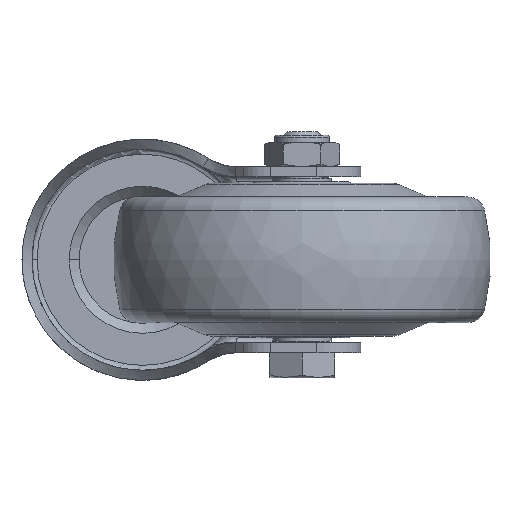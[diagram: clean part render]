
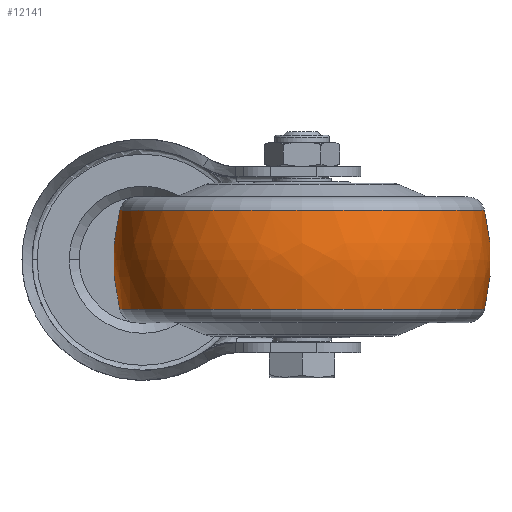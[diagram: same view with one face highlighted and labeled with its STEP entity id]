
A CAD part, front view. The second image highlights one B-rep face of the part: STEP entity #12141.
In plain terms, the highlighted free-form (B-spline) face has degree [3, 3] with [7, 4] control points.
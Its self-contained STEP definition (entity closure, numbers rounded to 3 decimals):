
#11679=CARTESIAN_POINT('',(0.,-2.5,0.));
#11680=DIRECTION('',(0.,0.,1.));
#11681=DIRECTION('',(0.247,0.969,0.));
#11682=AXIS2_PLACEMENT_3D('',#11679,#11680,#11681);
#11684=CARTESIAN_POINT('',(0.,2.5,0.));
#11685=DIRECTION('',(0.,0.,-1.));
#11686=DIRECTION('',(0.247,-0.969,0.));
#11687=AXIS2_PLACEMENT_3D('',#11684,#11685,#11686);
#11689=CARTESIAN_POINT('',(9.863,0.,0.));
#11690=DIRECTION('',(-1.,0.,0.));
#11691=DIRECTION('',(0.,1.,0.));
#11692=AXIS2_PLACEMENT_3D('',#11689,#11690,#11691);
#11704=CARTESIAN_POINT('',(-9.863,0.,0.));
#11705=DIRECTION('',(-1.,0.,0.));
#11706=DIRECTION('',(0.,1.,0.));
#11707=AXIS2_PLACEMENT_3D('',#11704,#11705,#11706);
#11984=CARTESIAN_POINT('',(9.863,36.265,0.));
#11985=CARTESIAN_POINT('',(-9.863,36.265,0.));
#11986=VERTEX_POINT('',#11984);
#11987=VERTEX_POINT('',#11985);
#12024=CARTESIAN_POINT('',(9.863,-36.265,0.));
#12025=CARTESIAN_POINT('',(-9.863,-36.265,0.));
#12026=VERTEX_POINT('',#12024);
#12027=VERTEX_POINT('',#12025);
#12104=CARTESIAN_POINT('',(-10.249,-36.093,
2.271));
#12105=CARTESIAN_POINT('',(-3.494,-37.88,
2.383));
#12106=CARTESIAN_POINT('',(3.494,-37.88,
2.383));
#12107=CARTESIAN_POINT('',(10.249,-36.093,
2.271));
#12108=CARTESIAN_POINT('',(-10.249,-37.491,
-19.941));
#12109=CARTESIAN_POINT('',(-3.494,-39.347,
-20.928));
#12110=CARTESIAN_POINT('',(3.494,-39.347,
-20.928));
#12111=CARTESIAN_POINT('',(10.249,-37.491,
-19.941));
#12112=CARTESIAN_POINT('',(-10.249,-22.256,
-36.165));
#12113=CARTESIAN_POINT('',(-3.494,-23.358,
-37.955));
#12114=CARTESIAN_POINT('',(3.494,-23.358,
-37.955));
#12115=CARTESIAN_POINT('',(10.249,-22.256,
-36.165));
#12116=CARTESIAN_POINT('',(-10.249,0.,-36.165));
#12117=CARTESIAN_POINT('',(-3.494,0.,-37.955));
#12118=CARTESIAN_POINT('',(3.494,0.,-37.955));
#12119=CARTESIAN_POINT('',(10.249,0.,-36.165));
#12120=CARTESIAN_POINT('',(-10.249,22.256,
-36.165));
#12121=CARTESIAN_POINT('',(-3.494,23.358,
-37.955));
#12122=CARTESIAN_POINT('',(3.494,23.358,
-37.955));
#12123=CARTESIAN_POINT('',(10.249,22.256,
-36.165));
#12124=CARTESIAN_POINT('',(-10.249,37.491,
-19.941));
#12125=CARTESIAN_POINT('',(-3.494,39.347,
-20.928));
#12126=CARTESIAN_POINT('',(3.494,39.347,
-20.928));
#12127=CARTESIAN_POINT('',(10.249,37.491,
-19.941));
#12128=CARTESIAN_POINT('',(-10.249,36.093,
2.271));
#12129=CARTESIAN_POINT('',(-3.494,37.88,
2.383));
#12130=CARTESIAN_POINT('',(3.494,37.88,2.383));
#12131=CARTESIAN_POINT('',(10.249,36.093,2.271));
#12132=(BOUNDED_SURFACE()B_SPLINE_SURFACE(3,3,((#12104,#12105,#12106,#12107),(
#12108,#12109,#12110,#12111),(#12112,#12113,#12114,#12115),(#12116,#12117,
#12118,#12119),(#12120,#12121,#12122,#12123),(#12124,#12125,#12126,#12127),(
#12128,#12129,#12130,#12131)),.UNSPECIFIED.,.F.,.F.,.F.)B_SPLINE_SURFACE_WITH_KNOTS((4,3,4),(4,4),(0.,1.,2.),(0.,1.),.UNSPECIFIED.)GEOMETRIC_REPRESENTATION_ITEM()RATIONAL_B_SPLINE_SURFACE(((1.207,1.181,
1.181,1.207),(0.953,0.932,
0.932,0.953),(0.953,0.932,
0.932,0.953),(1.207,1.181,
1.181,1.207),(0.953,0.932,
0.932,0.953),(0.953,0.932,
0.932,0.953),(1.207,1.181,
1.181,1.207)))REPRESENTATION_ITEM('')SURFACE());
#12133=ORIENTED_EDGE('',*,*,#12093,.T.);
#12135=ORIENTED_EDGE('',*,*,#12134,.T.);
#12136=ORIENTED_EDGE('',*,*,#12097,.F.);
#12138=ORIENTED_EDGE('',*,*,#12137,.F.);
#12139=EDGE_LOOP('',(#12133,#12135,#12136,#12138));
#12140=FACE_OUTER_BOUND('',#12139,.F.);
#11683=CIRCLE('',#11682,40.);
#11688=CIRCLE('',#11687,40.);
#11693=CIRCLE('',#11692,36.265);
#11708=CIRCLE('',#11707,36.265);
#12093=EDGE_CURVE('',#11986,#11987,#11683,.T.);
#12097=EDGE_CURVE('',#12026,#12027,#11688,.T.);
#12134=EDGE_CURVE('',#11987,#12027,#11708,.T.);
#12137=EDGE_CURVE('',#11986,#12026,#11693,.T.);
#12141=ADVANCED_FACE('',(#12140),#12132,.T.);
